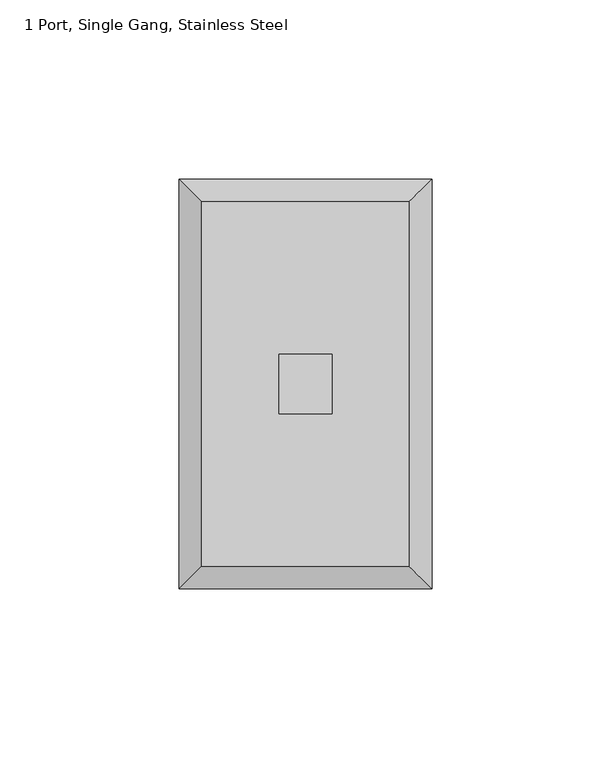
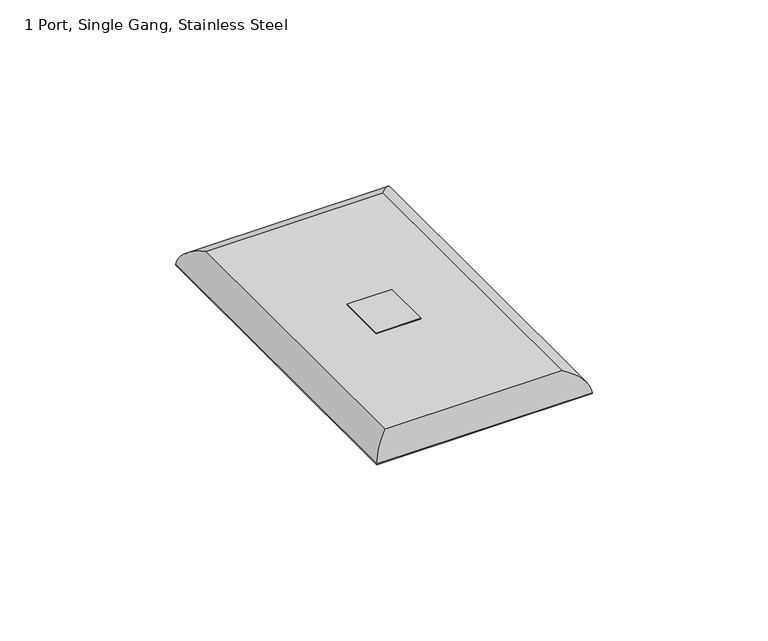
"""IFC4 building model written with IfcOpenShell, lengths in millimetres: electric appliance geometry, Data_Device-Work_Area-Leviton-QuickPort-Wallplate : 1 Port, Single Gang, Stainless Steel."""

from ifc_helpers import new_model, si_unit, frame, origin, origin_with_axes, place, context, project, spatial, polyline, ellipse_curve, outline, extrude, source, transform, mapped, element, save
from ifc_brep_helpers import plane_surface, cylinder_surface, advanced_brep


def electric_appliance_1_port_single_gang_stainless_steel_1b9ebc4b(model_context):
    return source(origin(), model_context, "Body", "SolidModel", [
        extrude(outline(polyline([(-15.6591, 16.4465), (-15.6591, -0.0635), (-30.3911, -0.0635), (-30.3911, 16.4465), (-15.6591, 16.4465)])), origin_with_axes(), (0.0, 0.0, 1.0), 6.35),
        advanced_brep(
        [(5.9309, -42.6085, 6.35), (5.9309, 58.9915, 6.35), (-51.9811, 58.9915, 6.35), (-51.9811, -42.6085, 6.35), (-30.3911, 16.4465, 6.35), (-15.6591, 16.4465, 6.35), (-15.6591, -0.0635, 6.35), (-30.3911, -0.0635, 6.35), (12.2809, 65.3415, 0.0), (12.2809, -48.9585, 0.0), (-58.3311, -48.9585, 0.0), (-58.3311, 65.3415, 0.0), (-15.6591, 16.4465, 0.0), (-30.3911, 16.4465, 0.0), (-30.3911, -0.0635, 0.0), (-15.6591, -0.0635, 0.0), (-58.3311, 65.3415, 0.254), (12.2809, 65.3415, 0.254), (-58.3311, -48.9585, 0.254), (12.2809, -48.9585, 0.254)],
        [
            (0, 1),
            (1, 2),
            (2, 3),
            (3, 0),
            (4, 5),
            (5, 6),
            (6, 7),
            (7, 4),
            (8, 9),
            (9, 10),
            (10, 11),
            (11, 8),
            (12, 13),
            (13, 14),
            (14, 15),
            (15, 12),
            (11, 16),
            (16, 17),
            (17, 8),
            (10, 18),
            (18, 16),
            (9, 19),
            (19, 18),
            (17, 19),
            (4, 13),
            (12, 5),
            (7, 14),
            (6, 15),
            (0, 19, ellipse_curve(frame((5.9309, -42.6085, -0.0052917), z_axis=(0.7071067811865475, 0.7071067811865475, 0.0), x_axis=(0.7071067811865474, -0.7071067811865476, 0.0)), 8.9877397, 6.3552917)),
            (17, 1, ellipse_curve(frame((5.9309, 58.9915, -0.0052917), z_axis=(0.7071067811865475, -0.7071067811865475, 0.0), x_axis=(-0.7071067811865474, -0.7071067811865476, 0.0)), 8.9877397, 6.3552917)),
            (3, 18, ellipse_curve(frame((-51.9811, -42.6085, -0.0052917), z_axis=(0.7071067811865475, -0.7071067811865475, 0.0), x_axis=(-0.7071067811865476, -0.7071067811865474, 0.0)), 8.9877397, 6.3552917)),
            (2, 16, ellipse_curve(frame((-51.9811, 58.9915, -0.0052917), z_axis=(-0.7071067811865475, -0.7071067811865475, 0.0), x_axis=(-0.7071067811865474, 0.7071067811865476, 0.0)), 8.9877397, 6.3552917)),
        ],
        [
            plane_surface(frame((-58.3311, 65.3415, 6.35), z_axis=(0.0, 0.0, 1.0), x_axis=(-1.0, 0.0, 0.0))),
            plane_surface(frame((-58.3311, 65.3415, 0.0), z_axis=(0.0, 0.0, -1.0), x_axis=(1.0, 0.0, 0.0))),
            plane_surface(frame((12.2809, 65.3415, 6.35), z_axis=(0.0, 1.0, 0.0), x_axis=(0.0, 0.0, -1.0))),
            plane_surface(frame((-58.3311, 65.3415, 6.35), z_axis=(-1.0, 0.0, 0.0), x_axis=(0.0, 0.0, -1.0))),
            plane_surface(frame((-58.3311, -48.9585, 6.35), z_axis=(0.0, -1.0, 0.0), x_axis=(0.0, 0.0, -1.0))),
            plane_surface(frame((12.2809, -48.9585, 6.35), z_axis=(1.0, 0.0, 0.0), x_axis=(0.0, 0.0, -1.0))),
            plane_surface(frame((-15.6591, 16.4465, 6.35), z_axis=(0.0, -1.0, 0.0), x_axis=(0.0, 0.0, -1.0))),
            plane_surface(frame((-30.3911, 16.4465, 6.35), z_axis=(1.0, 0.0, 0.0), x_axis=(0.0, 0.0, -1.0))),
            plane_surface(frame((-30.3911, -0.0635, 6.35), z_axis=(0.0, 1.0, 0.0), x_axis=(0.0, 0.0, -1.0))),
            plane_surface(frame((-15.6591, -0.0635, 6.35), z_axis=(-1.0, 0.0, 0.0), x_axis=(0.0, 0.0, -1.0))),
            cylinder_surface(frame((5.9309, 65.3415, -0.0052917), z_axis=(0.0, -1.0, 0.0), x_axis=(1.0, 0.0, 0.0)), 6.3552917),
            cylinder_surface(frame((12.2809, -42.6085, -0.0052917), z_axis=(-1.0, 0.0, 0.0), x_axis=(0.0, -1.0, 0.0)), 6.3552917),
            cylinder_surface(frame((-51.9811, -48.9585, -0.0052917), z_axis=(0.0, 1.0, 0.0), x_axis=(-1.0, 0.0, 0.0)), 6.3552917),
            cylinder_surface(frame((-58.3311, 58.9915, -0.0052917), z_axis=(1.0, 0.0, 0.0), x_axis=(0.0, 1.0, 0.0)), 6.3552917),
        ],
        [
            (0, [[1, 2, 3, 4], [5, 6, 7, 8]]),
            (1, [[9, 10, 11, 12], [13, 14, 15, 16]]),
            (2, [[-12, 17, 18, 19]]),
            (3, [[-11, 20, 21, -17]]),
            (4, [[-10, 22, 23, -20]]),
            (5, [[-9, -19, 24, -22]]),
            (6, [[25, -13, 26, -5]]),
            (7, [[-25, -8, 27, -14]]),
            (8, [[-27, -7, 28, -15]]),
            (9, [[-26, -16, -28, -6]]),
            (10, [[29, -24, 30, -1]]),
            (11, [[-29, -4, 31, -23]]),
            (12, [[-31, -3, 32, -21]]),
            (13, [[-30, -18, -32, -2]]),
        ],
    ),
        extrude(outline(polyline([(12.0269, 65.0875), (12.0269, -48.7045), (-58.0771, -48.7045), (-58.0771, 65.0875), (12.0269, 65.0875)]), holes=[polyline([(-15.6591, 16.4465), (-30.3911, 16.4465), (-30.3911, -0.0635), (-15.6591, -0.0635), (-15.6591, 16.4465)])]), origin_with_axes(), (0.0, 0.0, 1.0), 0.254),
    ])


if __name__ == "__main__":
    model = new_model("IFC4")
    model_context = context("Model", 3, world=origin())
    ifc_project = project(units=[si_unit("LENGTHUNIT", "METRE", prefix="MILLI")], contexts=[model_context])
    site = spatial("IfcSite", under=ifc_project)
    building = spatial("IfcBuilding", under=site)
    placement = place(None, origin())
    electric_appliance_1_port_single_gang_stainless_steel_shape = electric_appliance_1_port_single_gang_stainless_steel_1b9ebc4b(model_context)
    element("IfcElectricAppliance", 1, ObjectType="Data_Device-Work_Area-Leviton-QuickPort-Wallplate : 1 Port, Single Gang, Stainless Steel", at=placement, inside=building, context=model_context, shape_type="MappedRepresentation", body=[
        mapped(electric_appliance_1_port_single_gang_stainless_steel_shape, transform((0.0, 0.0, 0.0), x_axis=(1.0, 0.0, 0.0), y_axis=(0.0, 1.0, 0.0), z_axis=(0.0, 0.0, 1.0))),
    ])
    save(model, "model.ifc")
